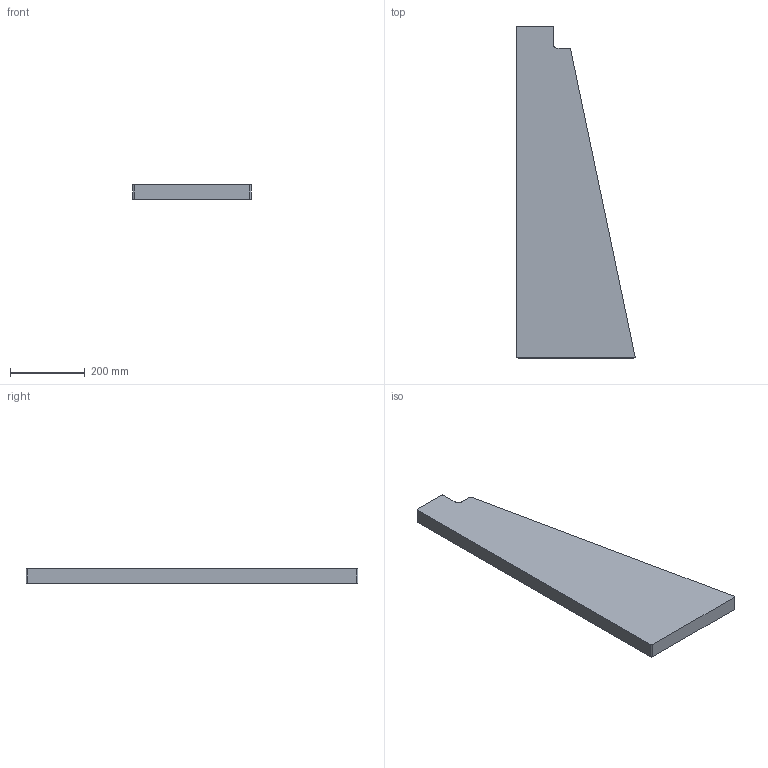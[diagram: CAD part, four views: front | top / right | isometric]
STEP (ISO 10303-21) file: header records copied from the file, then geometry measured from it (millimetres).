
FILE_DESCRIPTION(/* description */ (''),/* implementation_level */ '2;1');
FILE_NAME(/* name */ 'Pos109-Hout D= 40-Hout-3st',/* time_stamp */ '2024-08-06T13:37:43+02:00',/* author */ (''),/* organization */ (''),/* preprocessor_version */ 'ST-DEVELOPER v16.5',/* originating_system */ 'HiCAD 2024 2901.2 Build 361',/* authorisation */ '');
FILE_SCHEMA (('AUTOMOTIVE_DESIGN { 1 0 10303 214 1 1 1 1 }'));
Length unit declared in the file: millimetre
Products named in the file (2): Pos109-Hout D= 40-Hout-3st; Pos0-Antislip-Rubber-0st
Assembly tree (1 placements, depth 2):
  Pos109-Hout D= 40-Hout-3st
    Pos0-Antislip-Rubber-0st
Bounding box: 316.7 x 890 x 40 mm (x, y, z)
Volume: 7883644.6 mm3; surface area: 484052.2 mm2
Topology: 1 solids, 1 shells, 14 faces, 36 edges, 24 vertices
Faces by surface type: plane 8, cylinder 6
Entity records: 836 total; most frequent: DIRECTION 80, CARTESIAN_POINT 76, PRESENTATION_STYLE_ASSIGNMENT 73, COLOUR_RGB 73, DRAUGHTING_PRE_DEFINED_CURVE_FONT 72, CURVE_STYLE 72, OVER_RIDING_STYLED_ITEM 72, ORIENTED_EDGE 72
